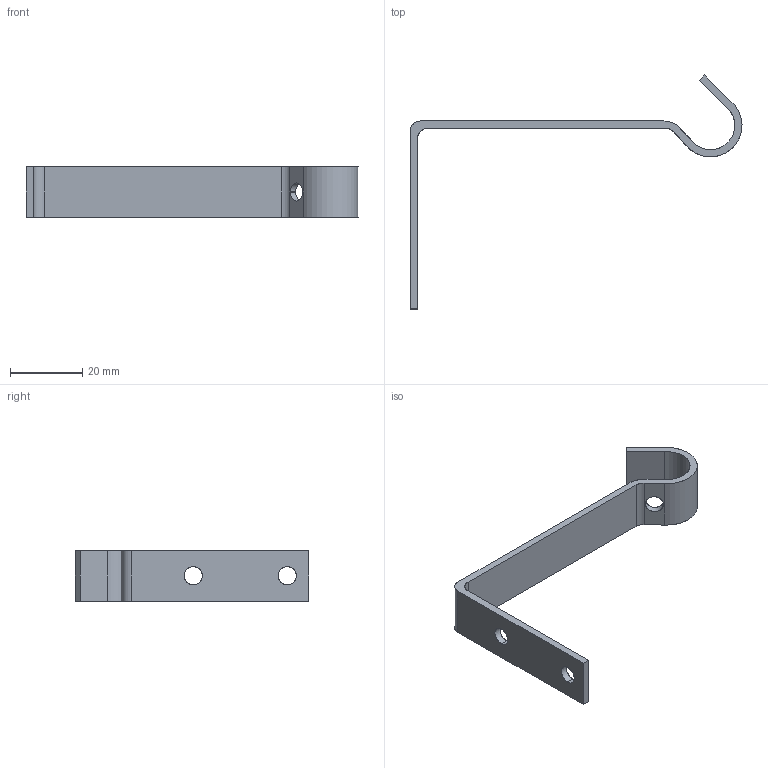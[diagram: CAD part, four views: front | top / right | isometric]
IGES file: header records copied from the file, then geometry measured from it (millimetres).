
Start section: SolidWorks IGES file using analytic representation for surfaces
Global section: file name: C:\Documents and Settings\Pc\Escritorio\Modelos 3D\Capítulo 1 (Estático)\PRACTICAS\OTROS\estante.IGS; native system: SolidWorks 2010; preprocessor: SolidWorks 2010; author: Pc; date: 100623.112208; units: millimetre
Bounding box: 91.86 x 64.73 x 14 mm (x, y, z)
Surface area: 5281.3 mm2 (no closed solid volume)
Topology: 0 solids, 0 shells, 24 faces, 418 edges, 418 vertices
Faces by surface type: revolution 12, bspline 12
